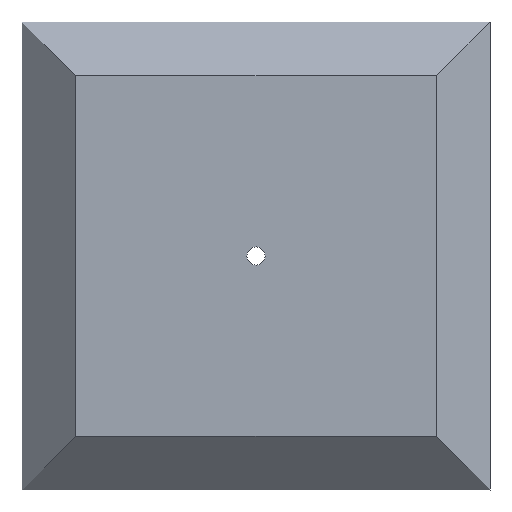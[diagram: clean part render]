
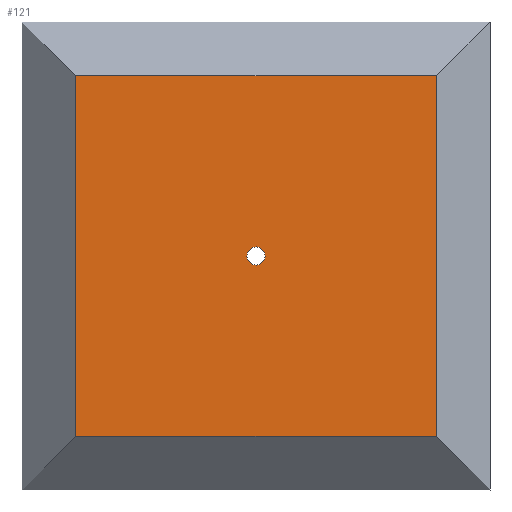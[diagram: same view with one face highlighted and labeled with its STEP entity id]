
A CAD part, front view. The second image highlights one B-rep face of the part: STEP entity #121.
In plain terms, the highlighted planar face has unit normal (0, -1, 0) as drawn and (0, 1, 0) by its records, which use the part's own axes.
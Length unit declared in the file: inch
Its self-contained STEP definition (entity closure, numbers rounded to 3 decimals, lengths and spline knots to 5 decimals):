
#4 = CARTESIAN_POINT ( 'NONE',  ( 0., 0.475, 0. ) ) ;
#8 = VERTEX_POINT ( 'NONE', #28 ) ;
#28 = CARTESIAN_POINT ( 'NONE',  ( 18.5, 0.475, -18.5 ) ) ;
#35 = CIRCLE ( 'NONE', #431, 0.465 ) ;
#60 = CARTESIAN_POINT ( 'NONE',  ( 9.25, 0.475, -9.25 ) ) ;
#64 = DIRECTION ( 'NONE',  ( 0., 0., 1. ) ) ;
#86 = CARTESIAN_POINT ( 'NONE',  ( 0., 0.475, -18.5 ) ) ;
#99 = DIRECTION ( 'NONE',  ( 1., 0., 0. ) ) ;
#113 = ORIENTED_EDGE ( 'NONE', *, *, #346, .T. ) ;
#121 = ADVANCED_FACE ( 'NONE', ( #210, #369 ), #347, .F. ) ;
#127 = CARTESIAN_POINT ( 'NONE',  ( 0., 0.475, 0. ) ) ;
#134 = LINE ( 'NONE', #445, #148 ) ;
#145 = ORIENTED_EDGE ( 'NONE', *, *, #294, .T. ) ;
#146 = EDGE_LOOP ( 'NONE', ( #186, #224 ) ) ;
#148 = VECTOR ( 'NONE', #515, 39.37008 ) ;
#169 = VECTOR ( 'NONE', #99, 39.37008 ) ;
#170 = AXIS2_PLACEMENT_3D ( 'NONE', #296, #344, #323 ) ;
#178 = LINE ( 'NONE', #86, #399 ) ;
#186 = ORIENTED_EDGE ( 'NONE', *, *, #543, .F. ) ;
#190 = CIRCLE ( 'NONE', #520, 0.465 ) ;
#201 = DIRECTION ( 'NONE',  ( 0., 1., 0. ) ) ;
#210 = FACE_BOUND ( 'NONE', #146, .T. ) ;
#215 = CARTESIAN_POINT ( 'NONE',  ( 9.25, 0.475, -9.25 ) ) ;
#217 = DIRECTION ( 'NONE',  ( 0., 0., 1. ) ) ;
#224 = ORIENTED_EDGE ( 'NONE', *, *, #404, .F. ) ;
#237 = ORIENTED_EDGE ( 'NONE', *, *, #363, .T. ) ;
#245 = CARTESIAN_POINT ( 'NONE',  ( 0., 0.475, 0. ) ) ;
#255 = CARTESIAN_POINT ( 'NONE',  ( 9.25, 0.475, -8.785 ) ) ;
#290 = LINE ( 'NONE', #245, #169 ) ;
#292 = CARTESIAN_POINT ( 'NONE',  ( 18.5, 0.475, 0. ) ) ;
#294 = EDGE_CURVE ( 'NONE', #377, #325, #354, .T. ) ;
#296 = CARTESIAN_POINT ( 'NONE',  ( 0., 0.475, 0. ) ) ;
#323 = DIRECTION ( 'NONE',  ( 0., 0., -1. ) ) ;
#325 = VERTEX_POINT ( 'NONE', #4 ) ;
#340 = EDGE_CURVE ( 'NONE', #8, #377, #178, .T. ) ;
#344 = DIRECTION ( 'NONE',  ( 0., -1., 0. ) ) ;
#346 = EDGE_CURVE ( 'NONE', #355, #8, #134, .T. ) ;
#347 = PLANE ( 'NONE',  #170 ) ;
#354 = LINE ( 'NONE', #127, #364 ) ;
#355 = VERTEX_POINT ( 'NONE', #292 ) ;
#363 = EDGE_CURVE ( 'NONE', #325, #355, #290, .T. ) ;
#364 = VECTOR ( 'NONE', #217, 39.37008 ) ;
#366 = VERTEX_POINT ( 'NONE', #424 ) ;
#369 = FACE_OUTER_BOUND ( 'NONE', #505, .T. ) ;
#377 = VERTEX_POINT ( 'NONE', #378 ) ;
#378 = CARTESIAN_POINT ( 'NONE',  ( 0., 0.475, -18.5 ) ) ;
#399 = VECTOR ( 'NONE', #532, 39.37008 ) ;
#404 = EDGE_CURVE ( 'NONE', #366, #495, #190, .T. ) ;
#407 = ORIENTED_EDGE ( 'NONE', *, *, #340, .T. ) ;
#424 = CARTESIAN_POINT ( 'NONE',  ( 9.25, 0.475, -9.715 ) ) ;
#431 = AXIS2_PLACEMENT_3D ( 'NONE', #215, #477, #433 ) ;
#433 = DIRECTION ( 'NONE',  ( 0., 0., 1. ) ) ;
#445 = CARTESIAN_POINT ( 'NONE',  ( 18.5, 0.475, 0. ) ) ;
#477 = DIRECTION ( 'NONE',  ( 0., 1., 0. ) ) ;
#495 = VERTEX_POINT ( 'NONE', #255 ) ;
#505 = EDGE_LOOP ( 'NONE', ( #145, #237, #113, #407 ) ) ;
#515 = DIRECTION ( 'NONE',  ( 0., 0., -1. ) ) ;
#520 = AXIS2_PLACEMENT_3D ( 'NONE', #60, #201, #64 ) ;
#532 = DIRECTION ( 'NONE',  ( -1., 0., 0. ) ) ;
#543 = EDGE_CURVE ( 'NONE', #495, #366, #35, .T. ) ;
